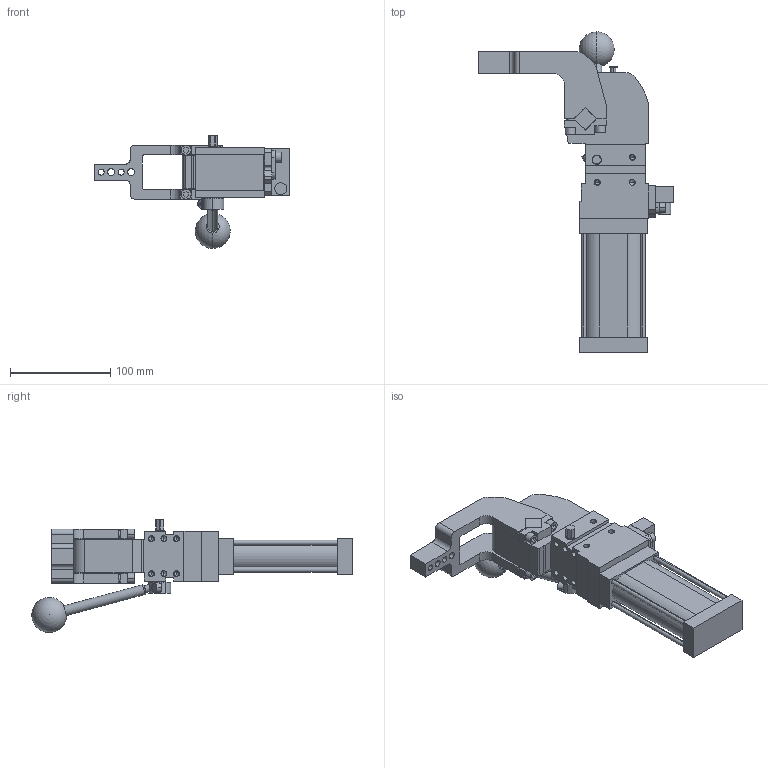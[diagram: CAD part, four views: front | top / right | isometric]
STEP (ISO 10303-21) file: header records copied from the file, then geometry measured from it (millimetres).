
FILE_DESCRIPTION (( 'STEP AP214' ), '1' );
FILE_NAME ('cplm40lbv3ci1g_103.STEP', '2021-05-25T13:51:32', ( '' ), ( '' ), 'SwSTEP 2.0', 'SolidWorks 2021', '' );
FILE_SCHEMA (( 'AUTOMOTIVE_DESIGN' ));
Length unit declared in the file: millimetre
Products named in the file (6): comando_manuale_cplm_40; leva_v3c_cpl40; blocchetto_VEP_0_cpl40; piastra_blocchetto_cpl40; meccanica_cplm40; cplm40lbv3ci1g_103
Assembly tree (5 placements, depth 2):
  cplm40lbv3ci1g_103
    meccanica_cplm40
    blocchetto_VEP_0_cpl40
    piastra_blocchetto_cpl40
    leva_v3c_cpl40
    comando_manuale_cplm_40
Bounding box: 195.5 x 319.99 x 112.66 mm (x, y, z)
Volume: 824463.8 mm3; surface area: 130997.7 mm2
Topology: 6 solids, 6 shells, 500 faces, 1288 edges, 815 vertices
Faces by surface type: plane 289, cylinder 163, cone 46, sphere 2
Entity records: 16520 total; most frequent: CARTESIAN_POINT 2679, DIRECTION 2635, ORIENTED_EDGE 2482, EDGE_CURVE 1241, AXIS2_PLACEMENT_3D 890, VECTOR 855, LINE 855, VERTEX_POINT 812
